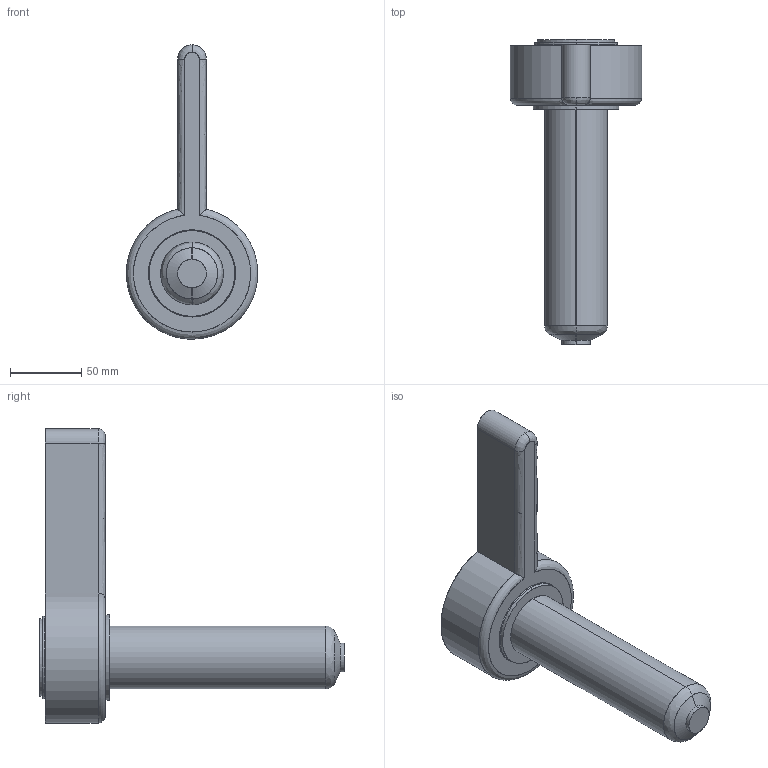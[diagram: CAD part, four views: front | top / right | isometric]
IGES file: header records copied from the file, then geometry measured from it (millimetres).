
Start section: SolidWorks IGES file using analytic representation for surfaces
Global section: file name: C:\Documents and Settings\ws-20\Desktop\TEM\Sede UGER6607-S-A C-164 L-211.IGS; native system: SolidWorks 2012; preprocessor: SolidWorks 2012; author: ws-20; date: 120417.105532; units: millimetre
Bounding box: 91.98 x 213.42 x 206 mm (x, y, z)
Surface area: 60987.7 mm2 (no closed solid volume)
Topology: 0 solids, 0 shells, 34 faces, 788 edges, 788 vertices
Faces by surface type: revolution 21, bspline 13
